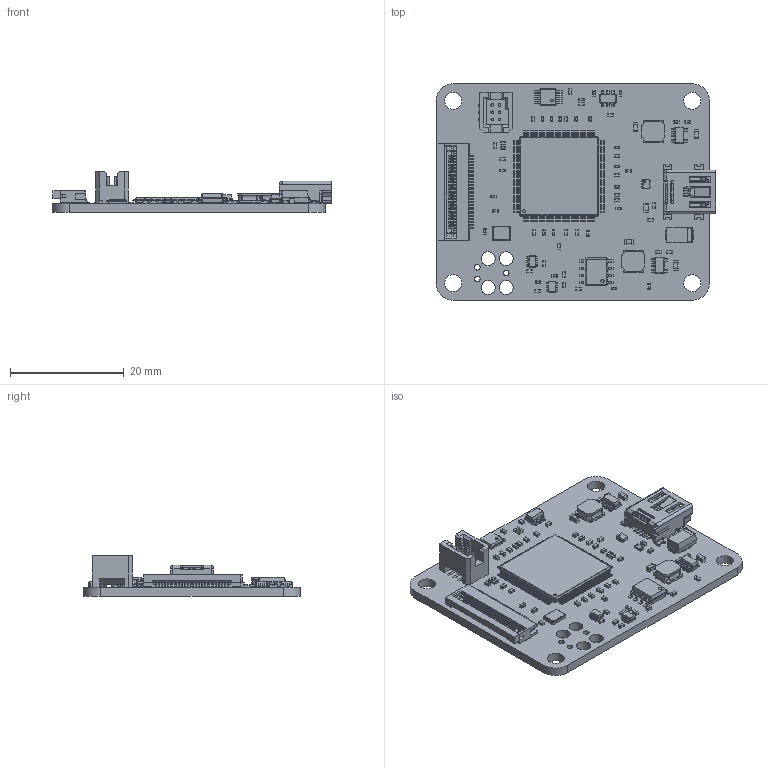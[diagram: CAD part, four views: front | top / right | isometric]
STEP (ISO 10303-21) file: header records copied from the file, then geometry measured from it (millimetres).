
FILE_DESCRIPTION(('FreeCAD Model'),'2;1');
FILE_NAME('Open CASCADE Shape Model','2026-09-15T15:30:02',(''),(''), 'Open CASCADE STEP processor 7.8','FreeCAD','Unknown');
FILE_SCHEMA(('AUTOMOTIVE_DESIGN { 1 0 10303 214 1 1 1 1 }'));
Length unit declared in the file: millimetre
Products named in the file (38): LIS_USB_Controller; Board_Geoms_860e; Pcb_860e; Step_Virtual_Models_860e; TopV_860e; p1; p2; L_XND4040TK003; L_XND4040TK; L_XND4040TK001; L_XND4040TK002; p7; p16; p21; p25; p28; p34; TFC-103-02-L-D-K_terminal; TFC-103-02-L-D_pins; TFC-103-02-L-D2_pins; p35; p36; p38; Shielding; Insulator; Pin_1; p39; 6871xx149022_Pin; 6871xx149022_Patte; 6871xx149022_Patte2; 687126149022; 687126149022_Actuator; p45; p52; p052; L_XND4040TK007; p67; p74
Assembly tree (126 placements, depth 6):
  LIS_USB_Controller
    Board_Geoms_860e
      Pcb_860e
    Step_Virtual_Models_860e
      TopV_860e
        p1  x53
        p2
          L_XND4040TK003
            L_XND4040TK
            L_XND4040TK001
            L_XND4040TK002
        p7
        p16
        p21  x2
        p25  x4
        p28
        p34
          TFC-103-02-L-D-K_terminal
          TFC-103-02-L-D_pins
          TFC-103-02-L-D2_pins
        p35  x2
        p36
        p38
          Shielding
          Insulator
          Pin_1  x5
        p39
          6871xx149022_Pin  x26
          6871xx149022_Patte
          6871xx149022_Patte2
          687126149022
          687126149022_Actuator
        p45
        p52
        p052
          L_XND4040TK007
            L_XND4040TK
            L_XND4040TK001
            L_XND4040TK002
        p67
        p74
Bounding box: 49.13 x 38 x 7.19 mm (x, y, z)
Volume: 3592.3 mm3; surface area: 7283.7 mm2
Topology: 116 solids, 116 shells, 6917 faces, 18908 edges, 12215 vertices
Faces by surface type: plane 4426, cylinder 2038, bspline 445, sphere 6, cone 2
Full cylindrical faces by diameter (mm): 0.25 x1, 0.457 x6, 0.5 x2, 0.6 x1, 0.8 x2, 0.9 x2, 0.991 x3, 2.45 x4, 3 x4
Entity records: 158743 total; most frequent: CARTESIAN_POINT 28520, ORIENTED_EDGE 22036, DIRECTION 19996, EDGE_CURVE 11018, LINE 8712, VECTOR 8712, VERTEX_POINT 6999, AXIS2_PLACEMENT_3D 5642
